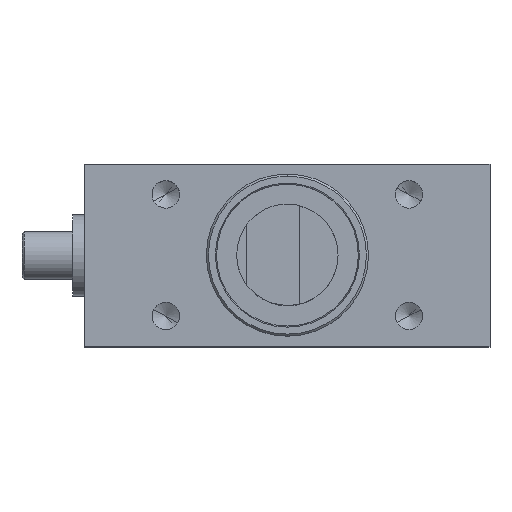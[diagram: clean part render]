
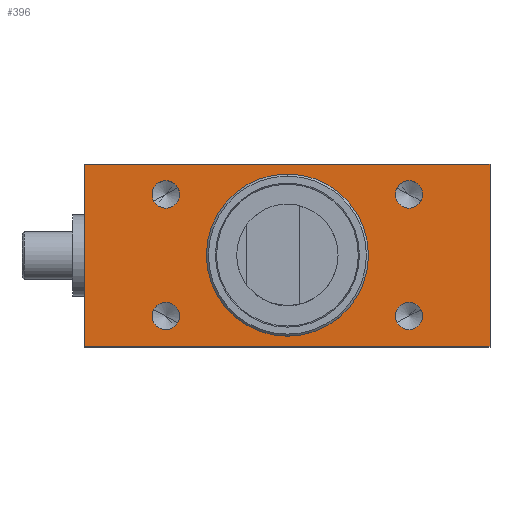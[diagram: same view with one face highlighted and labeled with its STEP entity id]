
A CAD part, top view. The second image highlights one B-rep face of the part: STEP entity #396.
In plain terms, the highlighted planar face has unit normal (0, 0, 1).
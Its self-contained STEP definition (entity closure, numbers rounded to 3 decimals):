
#185=CARTESIAN_POINT('Axis2P3D Location',(50.,0.,0.)) ;
#252=CARTESIAN_POINT('Vertex',(0.,20.,0.)) ;
#255=CARTESIAN_POINT('Axis2P3D Location',(0.,0.,0.)) ;
#259=CARTESIAN_POINT('Vertex',(0.,-20.,0.)) ;
#274=CARTESIAN_POINT('Axis2P3D Location',(0.,0.,0.)) ;
#286=CARTESIAN_POINT('Line Origine',(0.,-22.5,0.)) ;
#290=CARTESIAN_POINT('Vertex',(50.,-22.5,0.)) ;
#292=CARTESIAN_POINT('Vertex',(-50.,-22.5,0.)) ;
#295=CARTESIAN_POINT('Line Origine',(50.,0.,0.)) ;
#299=CARTESIAN_POINT('Vertex',(50.,22.5,0.)) ;
#302=CARTESIAN_POINT('Line Origine',(0.,22.5,0.)) ;
#306=CARTESIAN_POINT('Vertex',(-50.,22.5,0.)) ;
#309=CARTESIAN_POINT('Line Origine',(-50.,0.,0.)) ;
#320=CARTESIAN_POINT('Axis2P3D Location',(30.,15.,0.)) ;
#324=CARTESIAN_POINT('Vertex',(30.,11.6,0.)) ;
#326=CARTESIAN_POINT('Vertex',(30.,18.4,0.)) ;
#329=CARTESIAN_POINT('Axis2P3D Location',(30.,15.,0.)) ;
#338=CARTESIAN_POINT('Axis2P3D Location',(-30.,-15.,0.)) ;
#342=CARTESIAN_POINT('Vertex',(-30.,-11.6,0.)) ;
#344=CARTESIAN_POINT('Vertex',(-30.,-18.4,0.)) ;
#347=CARTESIAN_POINT('Axis2P3D Location',(-30.,-15.,0.)) ;
#356=CARTESIAN_POINT('Axis2P3D Location',(30.,-15.,0.)) ;
#360=CARTESIAN_POINT('Vertex',(30.,-18.4,0.)) ;
#362=CARTESIAN_POINT('Vertex',(30.,-11.6,0.)) ;
#365=CARTESIAN_POINT('Axis2P3D Location',(30.,-15.,0.)) ;
#378=CARTESIAN_POINT('Axis2P3D Location',(-30.,15.,0.)) ;
#382=CARTESIAN_POINT('Vertex',(-30.,18.4,0.)) ;
#384=CARTESIAN_POINT('Vertex',(-30.,11.6,0.)) ;
#387=CARTESIAN_POINT('Axis2P3D Location',(-30.,15.,0.)) ;
#186=DIRECTION('Axis2P3D Direction',(0.,0.,1.)) ;
#187=DIRECTION('Axis2P3D XDirection',(-1.,0.,0.)) ;
#256=DIRECTION('Axis2P3D Direction',(0.,0.,-1.)) ;
#275=DIRECTION('Axis2P3D Direction',(0.,0.,-1.)) ;
#287=DIRECTION('Vector Direction',(-1.,0.,0.)) ;
#296=DIRECTION('Vector Direction',(0.,-1.,0.)) ;
#303=DIRECTION('Vector Direction',(-1.,0.,0.)) ;
#310=DIRECTION('Vector Direction',(0.,-1.,0.)) ;
#321=DIRECTION('Axis2P3D Direction',(0.,0.,1.)) ;
#330=DIRECTION('Axis2P3D Direction',(0.,0.,1.)) ;
#339=DIRECTION('Axis2P3D Direction',(0.,0.,1.)) ;
#348=DIRECTION('Axis2P3D Direction',(0.,0.,1.)) ;
#357=DIRECTION('Axis2P3D Direction',(0.,0.,1.)) ;
#366=DIRECTION('Axis2P3D Direction',(0.,0.,1.)) ;
#379=DIRECTION('Axis2P3D Direction',(0.,0.,1.)) ;
#388=DIRECTION('Axis2P3D Direction',(0.,0.,1.)) ;
#188=AXIS2_PLACEMENT_3D('Plane Axis2P3D',#185,#186,#187) ;
#257=AXIS2_PLACEMENT_3D('Circle Axis2P3D',#255,#256,$) ;
#276=AXIS2_PLACEMENT_3D('Circle Axis2P3D',#274,#275,$) ;
#322=AXIS2_PLACEMENT_3D('Circle Axis2P3D',#320,#321,$) ;
#331=AXIS2_PLACEMENT_3D('Circle Axis2P3D',#329,#330,$) ;
#340=AXIS2_PLACEMENT_3D('Circle Axis2P3D',#338,#339,$) ;
#349=AXIS2_PLACEMENT_3D('Circle Axis2P3D',#347,#348,$) ;
#358=AXIS2_PLACEMENT_3D('Circle Axis2P3D',#356,#357,$) ;
#367=AXIS2_PLACEMENT_3D('Circle Axis2P3D',#365,#366,$) ;
#380=AXIS2_PLACEMENT_3D('Circle Axis2P3D',#378,#379,$) ;
#389=AXIS2_PLACEMENT_3D('Circle Axis2P3D',#387,#388,$) ;
#315=ORIENTED_EDGE('',*,*,#294,.F.) ;
#316=ORIENTED_EDGE('',*,*,#301,.F.) ;
#317=ORIENTED_EDGE('',*,*,#308,.T.) ;
#318=ORIENTED_EDGE('',*,*,#313,.T.) ;
#335=ORIENTED_EDGE('',*,*,#328,.T.) ;
#336=ORIENTED_EDGE('',*,*,#333,.T.) ;
#353=ORIENTED_EDGE('',*,*,#346,.T.) ;
#354=ORIENTED_EDGE('',*,*,#351,.T.) ;
#371=ORIENTED_EDGE('',*,*,#364,.F.) ;
#372=ORIENTED_EDGE('',*,*,#369,.F.) ;
#375=ORIENTED_EDGE('',*,*,#261,.T.) ;
#376=ORIENTED_EDGE('',*,*,#278,.T.) ;
#393=ORIENTED_EDGE('',*,*,#386,.F.) ;
#394=ORIENTED_EDGE('',*,*,#391,.F.) ;
#337=FACE_BOUND('',#334,.T.) ;
#355=FACE_BOUND('',#352,.T.) ;
#373=FACE_BOUND('',#370,.T.) ;
#377=FACE_BOUND('',#374,.T.) ;
#395=FACE_BOUND('',#392,.T.) ;
#288=VECTOR('Line Direction',#287,1.) ;
#297=VECTOR('Line Direction',#296,1.) ;
#304=VECTOR('Line Direction',#303,1.) ;
#311=VECTOR('Line Direction',#310,1.) ;
#396=ADVANCED_FACE('',(#319,#337,#355,#373,#377,#395),#189,.T.) ;
#258=CIRCLE('generated circle',#257,20.) ;
#277=CIRCLE('generated circle',#276,20.) ;
#323=CIRCLE('generated circle',#322,3.4) ;
#332=CIRCLE('generated circle',#331,3.4) ;
#341=CIRCLE('generated circle',#340,3.4) ;
#350=CIRCLE('generated circle',#349,3.4) ;
#359=CIRCLE('generated circle',#358,3.4) ;
#368=CIRCLE('generated circle',#367,3.4) ;
#381=CIRCLE('generated circle',#380,3.4) ;
#390=CIRCLE('generated circle',#389,3.4) ;
#261=EDGE_CURVE('',#260,#253,#258,.T.) ;
#278=EDGE_CURVE('',#253,#260,#277,.T.) ;
#294=EDGE_CURVE('',#291,#293,#289,.T.) ;
#301=EDGE_CURVE('',#300,#291,#298,.T.) ;
#308=EDGE_CURVE('',#300,#307,#305,.T.) ;
#313=EDGE_CURVE('',#307,#293,#312,.T.) ;
#328=EDGE_CURVE('',#325,#327,#323,.F.) ;
#333=EDGE_CURVE('',#327,#325,#332,.F.) ;
#346=EDGE_CURVE('',#343,#345,#341,.F.) ;
#351=EDGE_CURVE('',#345,#343,#350,.F.) ;
#364=EDGE_CURVE('',#361,#363,#359,.T.) ;
#369=EDGE_CURVE('',#363,#361,#368,.T.) ;
#386=EDGE_CURVE('',#383,#385,#381,.T.) ;
#391=EDGE_CURVE('',#385,#383,#390,.T.) ;
#314=EDGE_LOOP('',(#315,#316,#317,#318)) ;
#334=EDGE_LOOP('',(#335,#336)) ;
#352=EDGE_LOOP('',(#353,#354)) ;
#370=EDGE_LOOP('',(#371,#372)) ;
#374=EDGE_LOOP('',(#375,#376)) ;
#392=EDGE_LOOP('',(#393,#394)) ;
#319=FACE_OUTER_BOUND('',#314,.T.) ;
#289=LINE('Line',#286,#288) ;
#298=LINE('Line',#295,#297) ;
#305=LINE('Line',#302,#304) ;
#312=LINE('Line',#309,#311) ;
#189=PLANE('Plane',#188) ;
#253=VERTEX_POINT('',#252) ;
#260=VERTEX_POINT('',#259) ;
#291=VERTEX_POINT('',#290) ;
#293=VERTEX_POINT('',#292) ;
#300=VERTEX_POINT('',#299) ;
#307=VERTEX_POINT('',#306) ;
#325=VERTEX_POINT('',#324) ;
#327=VERTEX_POINT('',#326) ;
#343=VERTEX_POINT('',#342) ;
#345=VERTEX_POINT('',#344) ;
#361=VERTEX_POINT('',#360) ;
#363=VERTEX_POINT('',#362) ;
#383=VERTEX_POINT('',#382) ;
#385=VERTEX_POINT('',#384) ;
